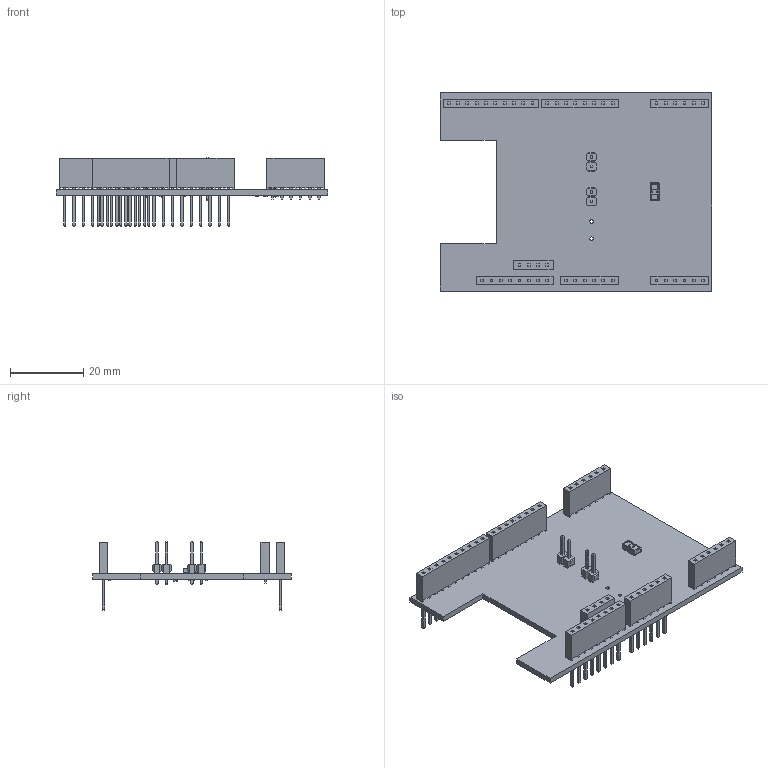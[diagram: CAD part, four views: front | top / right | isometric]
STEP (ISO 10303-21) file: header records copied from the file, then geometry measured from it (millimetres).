
FILE_DESCRIPTION(('Open CASCADE Model'),'2;1');
FILE_NAME('Open CASCADE Shape Model','2021-08-05T09:00:03',('Author'),( 'Open CASCADE'),'Open CASCADE STEP processor 6.8','Open CASCADE 6.8' ,'Unknown');
FILE_SCHEMA(('AUTOMOTIVE_DESIGN { 1 0 10303 214 1 1 1 1 }'));
Length unit declared in the file: millimetre
Products named in the file (51): PCB; Board; Open CASCADE STEP translator 6.8 1.1.1; J3; SSW-104-01-G-S; _T1SSW-104-01-G-S; _P2SSW-104-01-G-S; R6; 5925966912; Extruded; R5; R4; R3; J4_Left; SSW-106-01-G-S; _T1SSW-106-01-G-S; _P2SSW-106-01-G-S; J4_Right; U1; EWOK_Plus_25_Module; EWOK_Plus_25_Substrate_Assembly_Solid_Model; Ewok_Plus_25_Substrate_Solid_Model; EWOK_Plus_25_Des1A_Cap_Solid_Model; R2; R1; CN6; SSQ-108-03-F-S; _T1SSQ-108-03-F-S; _P2SSQ-108-03-F-S; CN8; SSQ-106-03-F-S; _T1SSQ-106-03-F-S; _P2SSQ-106-03-F-S; CN9; CN5; SSQ-110-03-F-S; _T1SSQ-110-03-F-S; _P2SSQ-110-03-F-S; C2; 6254611728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
Assembly tree (60 placements, depth 5):
  PCB
    Board
      Open CASCADE STEP translator 6.8 1.1.1
    J3
      SSW-104-01-G-S
        _T1SSW-104-01-G-S
        _P2SSW-104-01-G-S
    R6
      5925966912
        Extruded
    R5
      5925966912
        Extruded
    R4
      5925966912
        Extruded
    R3
      5925966912
        Extruded
    J4_Left
      SSW-106-01-G-S
        _T1SSW-106-01-G-S
        _P2SSW-106-01-G-S
    J4_Right
      SSW-106-01-G-S
        _T1SSW-106-01-G-S
        _P2SSW-106-01-G-S
    U1
      EWOK_Plus_25_Module
        EWOK_Plus_25_Substrate_Assembly_Solid_Model
          Ewok_Plus_25_Substrate_Solid_Model
        EWOK_Plus_25_Des1A_Cap_Solid_Model
    R2
      5925966912
        Extruded
    R1
      5925966912
        Extruded
    CN6
      SSQ-108-03-F-S
        _T1SSQ-108-03-F-S
        _P2SSQ-108-03-F-S
    CN8
      SSQ-106-03-F-S
        _T1SSQ-106-03-F-S
        _P2SSQ-106-03-F-S
    CN9
      SSQ-108-03-F-S
        _T1SSQ-108-03-F-S
        _P2SSQ-108-03-F-S
    CN5
      SSQ-110-03-F-S
        _T1SSQ-110-03-F-S
        _P2SSQ-110-03-F-S
    C2
      6254611728
        Extruded
      6254611488  x2
        Extruded
    C1
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Bounding box: 74 x 54 x 18.63 mm (x, y, z)
Volume: 8109.6 mm3; surface area: 13657.9 mm2
Topology: 46 solids, 46 shells, 1440 faces, 3805 edges, 2508 vertices
Faces by surface type: plane 1342, cylinder 89, bspline 9
Full cylindrical faces by diameter (mm): 1 x38, 1.1 x16
Entity records: 38240 total; most frequent: CARTESIAN_POINT 5967, ORIENTED_EDGE 5656, DIRECTION 5235, EDGE_CURVE 2828, LINE 2643, VECTOR 2643, VERTEX_POINT 1872, AXIS2_PLACEMENT_3D 1296
